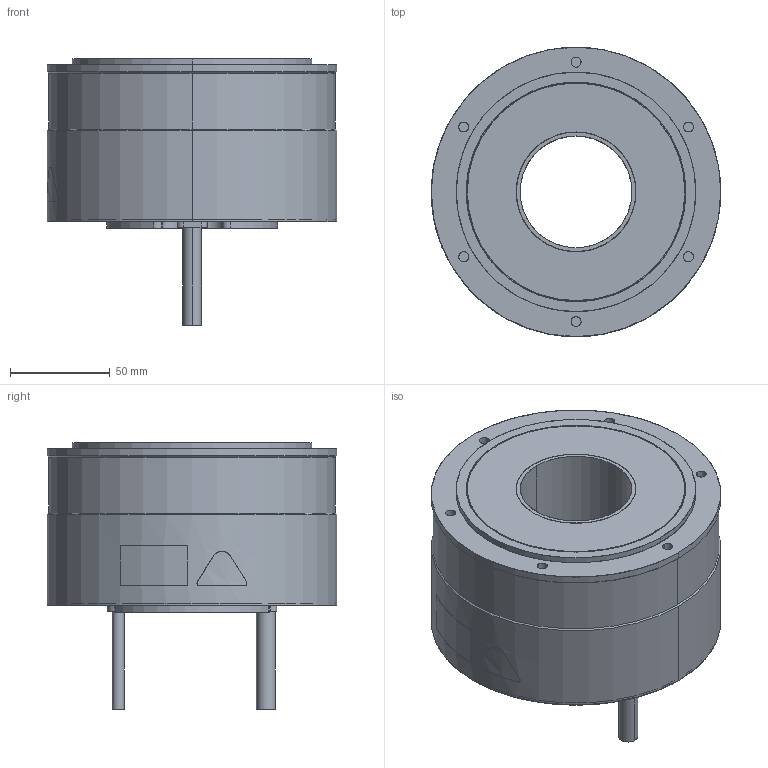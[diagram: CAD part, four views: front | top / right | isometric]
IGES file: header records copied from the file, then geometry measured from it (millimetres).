
Start section: SolidWorks IGES file using analytic representation for surfaces
Bounding box: 145.06 x 145 x 133.6 mm (x, y, z)
Surface area: 90256.3 mm2 (no closed solid volume)
Topology: 0 solids, 0 shells, 170 faces, 3730 edges, 3730 vertices
Faces by surface type: revolution 109, bspline 61
